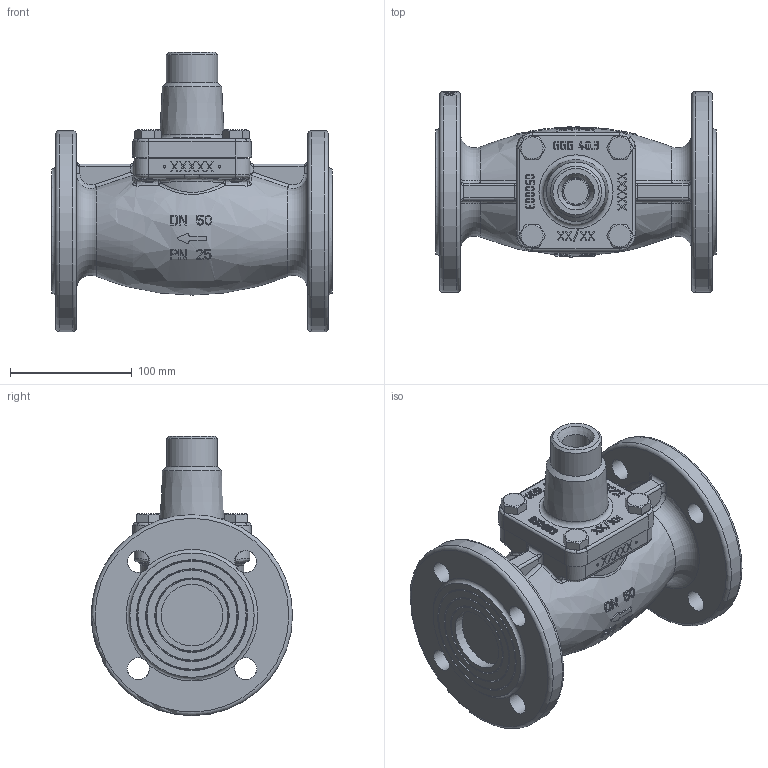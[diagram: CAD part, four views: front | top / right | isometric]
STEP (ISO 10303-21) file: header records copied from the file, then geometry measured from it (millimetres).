
FILE_DESCRIPTION(('TFLEX Exchange Step'),'2;1');
FILE_NAME('VFG-2R DN50 Упрощенный.stp', '2026-05-13T12:53:19+03:00',('RUCO3744'),('Unknown organisation'),'TFLEX Exchange 2024.6','T-FLEX CAD','Unknown authorisation');
FILE_SCHEMA( ('AUTOMOTIVE_DESIGN { 1 0 10303 214 1 1 1 1 }') );
Length unit declared in the file: millimetre
Products named in the file (1): Nodes
Bounding box: 230 x 165 x 229.3 mm (x, y, z)
Volume: 2391652.5 mm3; surface area: 212500.1 mm2
Topology: 5 solids, 5 shells, 2058 faces, 5787 edges, 3842 vertices
Faces by surface type: plane 1572, bspline 339, cylinder 90, cone 28, torus 25, sphere 4
Full cylindrical faces by diameter (mm): 2.3 x4, 10.863 x4, 12 x4, 14 x4, 18.1 x8, 23 x1, 42 x1, 50.5 x2, 81 x1, 165 x2
Entity records: 73925 total; most frequent: CARTESIAN_POINT 27321, ORIENTED_EDGE 11586, DIRECTION 6708, EDGE_CURVE 5793, VERTEX_POINT 3850, B_SPLINE_CURVE_WITH_KNOTS 2720, VECTOR 2494, LINE 2494
